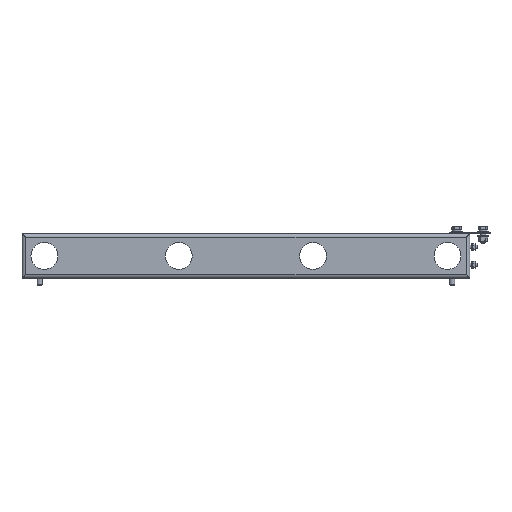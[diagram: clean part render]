
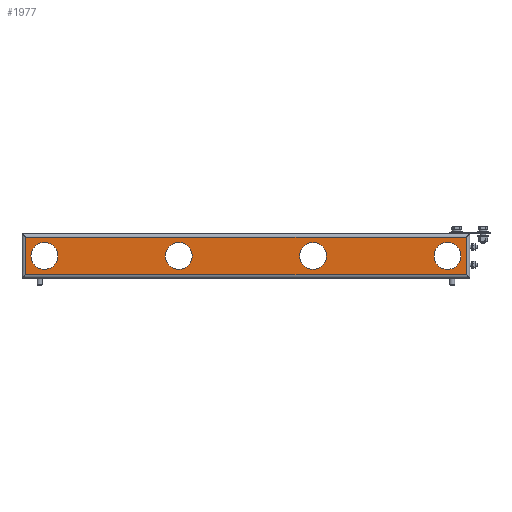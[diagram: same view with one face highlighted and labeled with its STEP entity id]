
A CAD part, left-side view. The second image highlights one B-rep face of the part: STEP entity #1977.
In plain terms, the highlighted planar face has unit normal (-1, 0, 0).
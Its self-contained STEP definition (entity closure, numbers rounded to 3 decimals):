
#1977=ADVANCED_FACE('',(#2303,#2305,#2307,#2309,#2311),#2313,.T.);
#2303=FACE_BOUND('',#2304,.T.);
#2304=EDGE_LOOP('',(#5696,#5697,#5698,#5699));
#2305=FACE_BOUND('',#2306,.T.);
#2306=EDGE_LOOP('',(#5700));
#2307=FACE_BOUND('',#2308,.T.);
#2308=EDGE_LOOP('',(#5701));
#2309=FACE_BOUND('',#2310,.T.);
#2310=EDGE_LOOP('',(#5702));
#2311=FACE_BOUND('',#2312,.T.);
#2312=EDGE_LOOP('',(#5703));
#2313=PLANE('',#2314);
#2314=AXIS2_PLACEMENT_3D('',#2315,#2316,#2317);
#2315=CARTESIAN_POINT('',(0.,500.,42.));
#2316=DIRECTION('',(-1.,0.,0.));
#2317=DIRECTION('',(0.,0.,-1.));
#5696=ORIENTED_EDGE('',*,*,#6312,.T.);
#5697=ORIENTED_EDGE('',*,*,#6313,.T.);
#5698=ORIENTED_EDGE('',*,*,#6302,.T.);
#5699=ORIENTED_EDGE('',*,*,#6311,.F.);
#5700=ORIENTED_EDGE('',*,*,#6314,.T.);
#5701=ORIENTED_EDGE('',*,*,#6315,.T.);
#5702=ORIENTED_EDGE('',*,*,#6316,.T.);
#5703=ORIENTED_EDGE('',*,*,#6317,.T.);
#6302=EDGE_CURVE('',#6614,#6612,#6615,.T.);
#6311=EDGE_CURVE('',#6628,#6612,#6630,.T.);
#6312=EDGE_CURVE('',#6628,#6631,#6632,.T.);
#6313=EDGE_CURVE('',#6631,#6614,#6633,.T.);
#6314=EDGE_CURVE('',#6634,#6634,#6635,.F.);
#6315=EDGE_CURVE('',#6636,#6636,#6637,.F.);
#6316=EDGE_CURVE('',#6638,#6638,#6639,.F.);
#6317=EDGE_CURVE('',#6640,#6640,#6641,.F.);
#6612=VERTEX_POINT('',#7146);
#6614=VERTEX_POINT('',#7151);
#6615=LINE('',#7152,#7153);
#6628=VERTEX_POINT('',#7184);
#6630=LINE('',#7189,#7190);
#6631=VERTEX_POINT('',#7192);
#6632=LINE('',#7193,#7194);
#6633=LINE('',#7196,#7197);
#6634=VERTEX_POINT('',#7199);
#6635=CIRCLE('',#7200,30.);
#6636=VERTEX_POINT('',#7204);
#6637=CIRCLE('',#7205,30.);
#6638=VERTEX_POINT('',#7209);
#6639=CIRCLE('',#7210,30.);
#6640=VERTEX_POINT('',#7214);
#6641=CIRCLE('',#7215,30.);
#7146=CARTESIAN_POINT('',(0.,-492.,42.));
#7151=CARTESIAN_POINT('',(0.,-492.,-42.));
#7152=CARTESIAN_POINT('',(0.,-492.,-42.));
#7153=VECTOR('',#7154,1.);
#7154=DIRECTION('',(0.,0.,1.));
#7184=CARTESIAN_POINT('',(0.,492.,42.));
#7189=CARTESIAN_POINT('',(0.,492.,42.));
#7190=VECTOR('',#7191,1.);
#7191=DIRECTION('',(0.,-1.,0.));
#7192=CARTESIAN_POINT('',(0.,492.,-42.));
#7193=CARTESIAN_POINT('',(0.,492.,42.));
#7194=VECTOR('',#7195,1.);
#7195=DIRECTION('',(0.,0.,-1.));
#7196=CARTESIAN_POINT('',(0.,492.,-42.));
#7197=VECTOR('',#7198,1.);
#7198=DIRECTION('',(0.,-1.,0.));
#7199=CARTESIAN_POINT('',(0.,120.,0.));
#7200=AXIS2_PLACEMENT_3D('',#7201,#7202,#7203);
#7201=CARTESIAN_POINT('',(0.,150.,0.));
#7202=DIRECTION('',(-1.,0.,0.));
#7203=DIRECTION('',(0.,-1.,0.));
#7204=CARTESIAN_POINT('',(0.,-180.,0.));
#7205=AXIS2_PLACEMENT_3D('',#7206,#7207,#7208);
#7206=CARTESIAN_POINT('',(0.,-150.,0.));
#7207=DIRECTION('',(-1.,0.,0.));
#7208=DIRECTION('',(0.,-1.,0.));
#7209=CARTESIAN_POINT('',(0.,-480.,0.));
#7210=AXIS2_PLACEMENT_3D('',#7211,#7212,#7213);
#7211=CARTESIAN_POINT('',(0.,-450.,0.));
#7212=DIRECTION('',(-1.,0.,0.));
#7213=DIRECTION('',(0.,-1.,0.));
#7214=CARTESIAN_POINT('',(0.,420.,0.));
#7215=AXIS2_PLACEMENT_3D('',#7216,#7217,#7218);
#7216=CARTESIAN_POINT('',(0.,450.,0.));
#7217=DIRECTION('',(-1.,0.,0.));
#7218=DIRECTION('',(0.,-1.,0.));
